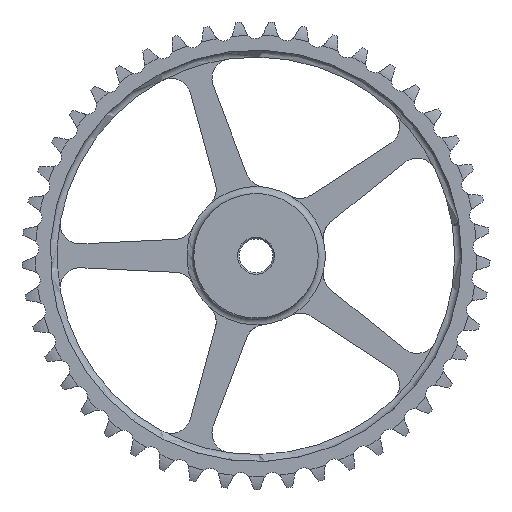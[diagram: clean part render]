
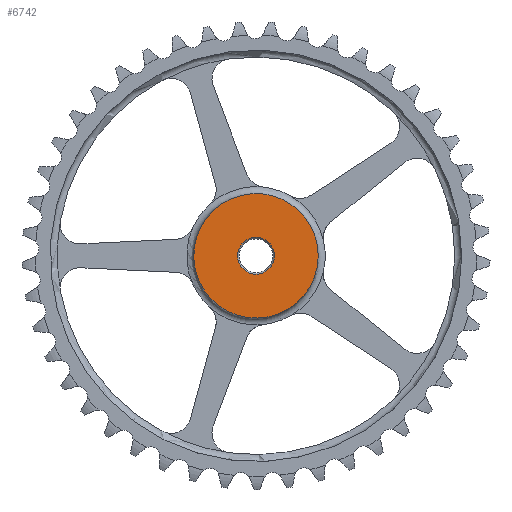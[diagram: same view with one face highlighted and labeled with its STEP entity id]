
A CAD part, left-side view. The second image highlights one B-rep face of the part: STEP entity #6742.
In plain terms, the highlighted planar face has unit normal (-1, 0, 0).
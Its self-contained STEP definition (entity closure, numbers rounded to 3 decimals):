
#36=FACE_BOUND('',#1317,.T.);
#79=PLANE('',#7503);
#570=CIRCLE('',#7502,62.5);
#571=CIRCLE('',#7504,18.5);
#938=FACE_OUTER_BOUND('',#1316,.T.);
#1316=EDGE_LOOP('',(#6016));
#1317=EDGE_LOOP('',(#6017));
#2955=VERTEX_POINT('',#13351);
#2956=VERTEX_POINT('',#13354);
#4018=EDGE_CURVE('',#2955,#2955,#570,.T.);
#4019=EDGE_CURVE('',#2956,#2956,#571,.T.);
#6016=ORIENTED_EDGE('',*,*,#4018,.T.);
#6017=ORIENTED_EDGE('',*,*,#4019,.F.);
#6742=ADVANCED_FACE('',(#938,#36),#79,.T.);
#7502=AXIS2_PLACEMENT_3D('',#13352,#9288,#9289);
#7503=AXIS2_PLACEMENT_3D('',#13353,#9290,#9291);
#7504=AXIS2_PLACEMENT_3D('',#13355,#9292,#9293);
#9288=DIRECTION('center_axis',(-1.,0.,0.));
#9289=DIRECTION('ref_axis',(0.,0.,1.));
#9290=DIRECTION('center_axis',(-1.,0.,0.));
#9291=DIRECTION('ref_axis',(0.,0.,1.));
#9292=DIRECTION('center_axis',(-1.,0.,0.));
#9293=DIRECTION('ref_axis',(0.,0.,1.));
#13351=CARTESIAN_POINT('',(-16.535,165.613,0.));
#13352=CARTESIAN_POINT('Origin',(-16.535,228.113,0.));
#13353=CARTESIAN_POINT('Origin',(-16.535,209.613,0.));
#13354=CARTESIAN_POINT('',(-16.535,209.613,0.));
#13355=CARTESIAN_POINT('Origin',(-16.535,228.113,0.));
